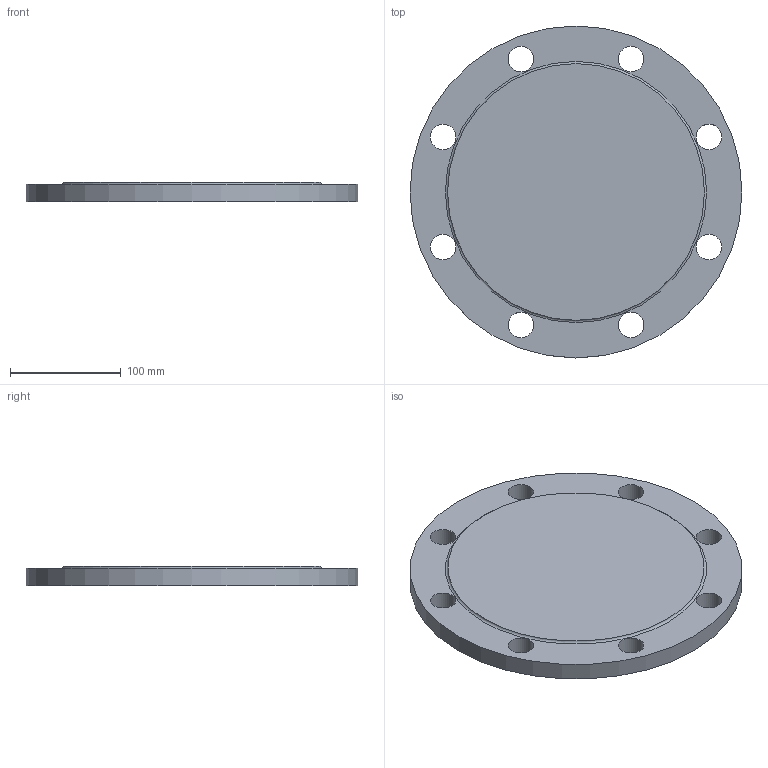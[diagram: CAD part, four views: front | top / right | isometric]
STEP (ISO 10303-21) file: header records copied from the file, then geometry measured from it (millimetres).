
FILE_DESCRIPTION(/* description */ (''),/* implementation_level */ '2;1');
FILE_NAME(/* name */ 'C:\Users\D\Documents\Inventor\HP\JIS\フランジ\JIS 5k bl rf\jis5k-bl-rf-175.stp',/* time_stamp */ '2024-09-12T16:52:12+09:00',/* author */ ('D'),/* organization */ (''),/* preprocessor_version */ 'ST-DEVELOPER v18',/* originating_system */ 'Autodesk Inventor 2020',/* authorisation */ '');
FILE_SCHEMA (('AUTOMOTIVE_DESIGN { 1 0 10303 214 3 1 1 }'));
Length unit declared in the file: millimetre
Products named in the file (1): jis5k-sop-rf-10
Bounding box: 300 x 300 x 18 mm (x, y, z)
Volume: 1162967.1 mm3; surface area: 159886.4 mm2
Topology: 1 solids, 1 shells, 13 faces, 34 edges, 24 vertices
Faces by surface type: cylinder 9, plane 3, torus 1
Full cylindrical faces by diameter (mm): 23 x8, 300 x1
Entity records: 498 total; most frequent: DIRECTION 87, CARTESIAN_POINT 72, ORIENTED_EDGE 68, AXIS2_PLACEMENT_3D 39, EDGE_CURVE 34, EDGE_LOOP 30, CIRCLE 25, VERTEX_POINT 24
